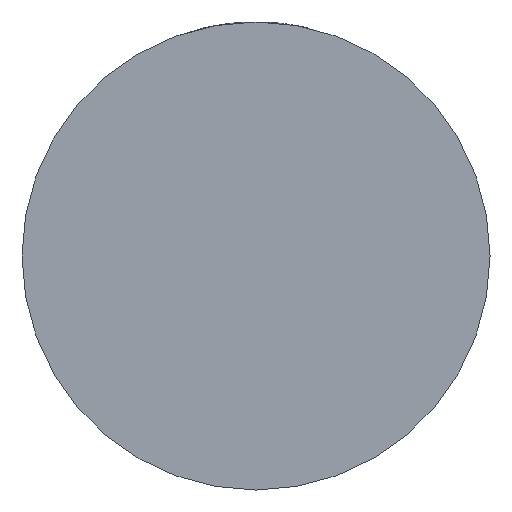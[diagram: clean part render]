
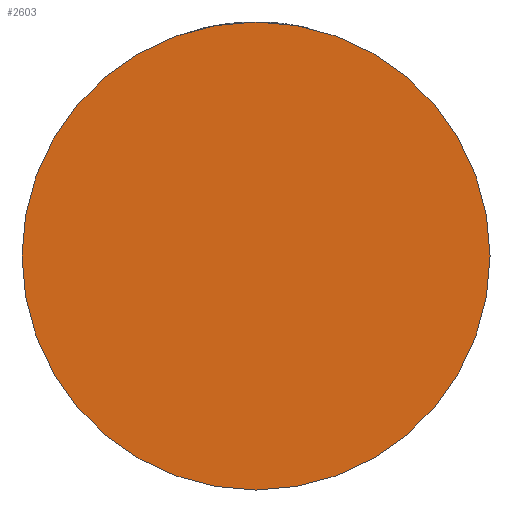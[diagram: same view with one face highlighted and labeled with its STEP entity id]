
A CAD part, front view. The second image highlights one B-rep face of the part: STEP entity #2603.
In plain terms, the highlighted planar face has unit normal (0, -1, 0).
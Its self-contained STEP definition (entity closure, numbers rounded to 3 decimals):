
#229 = VERTEX_POINT ( 'NONE', #2276 ) ;
#571 = ORIENTED_EDGE ( 'NONE', *, *, #771, .T. ) ;
#743 = AXIS2_PLACEMENT_3D ( 'NONE', #2842, #3929, #4279 ) ;
#771 = EDGE_CURVE ( 'NONE', #3846, #229, #967, .T. ) ;
#845 = FACE_OUTER_BOUND ( 'NONE', #2642, .T. ) ;
#967 = CIRCLE ( 'NONE', #3172, 40. ) ;
#1126 = DIRECTION ( 'NONE',  ( 1., 0., 0. ) ) ;
#1186 = DIRECTION ( 'NONE',  ( 0., -1., 0. ) ) ;
#1498 = PLANE ( 'NONE',  #743 ) ;
#2183 = CARTESIAN_POINT ( 'NONE',  ( 0., -28., 0. ) ) ;
#2203 = EDGE_CURVE ( 'NONE', #229, #3846, #3793, .T. ) ;
#2276 = CARTESIAN_POINT ( 'NONE',  ( 40., -28., 0. ) ) ;
#2400 = ORIENTED_EDGE ( 'NONE', *, *, #2203, .T. ) ;
#2603 = ADVANCED_FACE ( 'NONE', ( #845 ), #1498, .T. ) ;
#2624 = DIRECTION ( 'NONE',  ( 0., -1., 0. ) ) ;
#2642 = EDGE_LOOP ( 'NONE', ( #571, #2400 ) ) ;
#2842 = CARTESIAN_POINT ( 'NONE',  ( 0., -28., 0. ) ) ;
#2867 = CARTESIAN_POINT ( 'NONE',  ( -40., -28., 0. ) ) ;
#3172 = AXIS2_PLACEMENT_3D ( 'NONE', #2183, #1186, #1126 ) ;
#3316 = DIRECTION ( 'NONE',  ( 1., 0., 0. ) ) ;
#3654 = CARTESIAN_POINT ( 'NONE',  ( 0., -28., 0. ) ) ;
#3793 = CIRCLE ( 'NONE', #4067, 40. ) ;
#3846 = VERTEX_POINT ( 'NONE', #2867 ) ;
#3929 = DIRECTION ( 'NONE',  ( 0., -1., 0. ) ) ;
#4067 = AXIS2_PLACEMENT_3D ( 'NONE', #3654, #2624, #3316 ) ;
#4279 = DIRECTION ( 'NONE',  ( 1., 0., 0. ) ) ;
